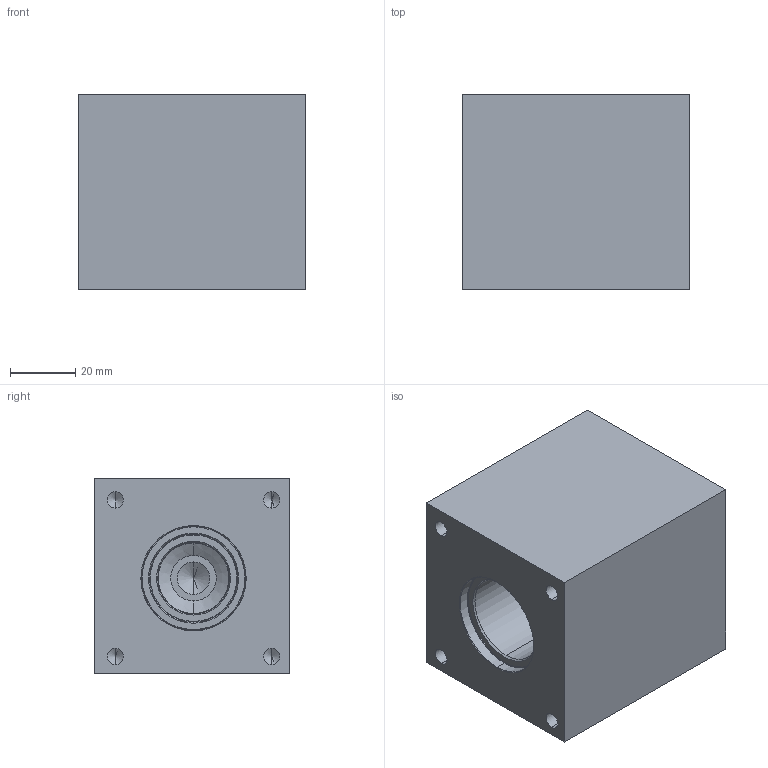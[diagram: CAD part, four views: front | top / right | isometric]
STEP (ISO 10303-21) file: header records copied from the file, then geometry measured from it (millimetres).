
FILE_DESCRIPTION (( 'STEP AP214' ), '1' );
FILE_NAME ('2.13-1015_.2210.STEP', '2022-02-09T12:40:25', ( '' ), ( '' ), 'SwSTEP 2.0', 'SolidWorks 2020', '' );
FILE_SCHEMA (( 'AUTOMOTIVE_DESIGN' ));
Length unit declared in the file: millimetre
Products named in the file (1): 2.13-1015_.2210
Bounding box: 70 x 60 x 60 mm (x, y, z)
Volume: 220073.5 mm3; surface area: 29757.6 mm2
Topology: 1 solids, 1 shells, 52 faces, 114 edges, 65 vertices
Faces by surface type: cylinder 22, cone 18, plane 12
Entity records: 1544 total; most frequent: DIRECTION 262, CARTESIAN_POINT 222, ORIENTED_EDGE 208, AXIS2_PLACEMENT_3D 105, EDGE_CURVE 104, VERTEX_POINT 65, EDGE_LOOP 63, VECTOR 52
